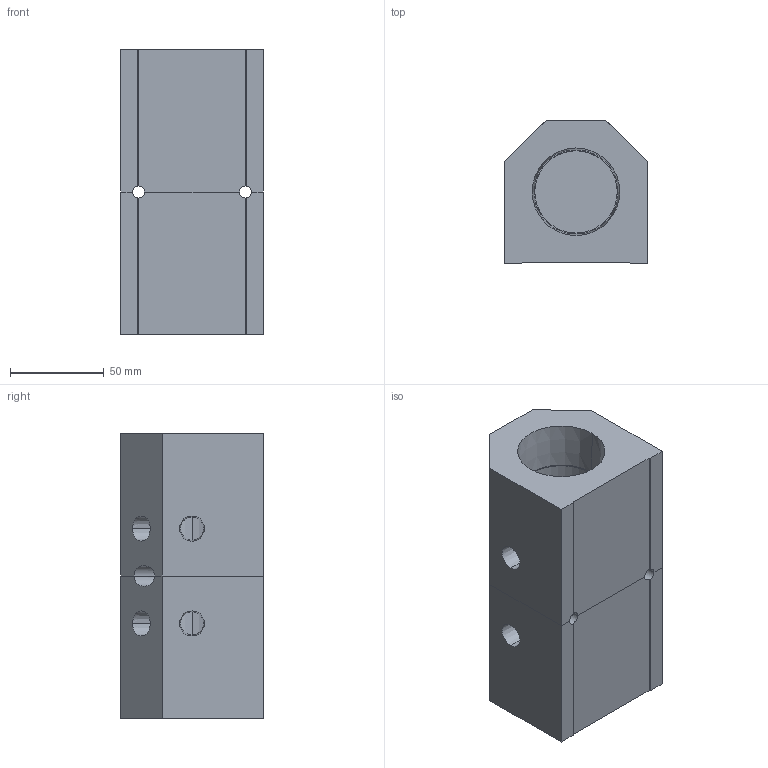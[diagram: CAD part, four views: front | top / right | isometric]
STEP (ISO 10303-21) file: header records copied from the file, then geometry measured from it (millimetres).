
FILE_DESCRIPTION (( 'STEP AP214' ), '1' );
FILE_NAME ('ALM2ABC-N4N24-152RB.step', '2022-02-07T07:51:54', ( '' ), ( '' ), 'SwSTEP 2.0', 'SolidWorks 2020', '' );
FILE_SCHEMA (( 'AUTOMOTIVE_DESIGN' ));
Length unit declared in the file: millimetre
Products named in the file (1): ALM2ABC-N4N24-152RB
Bounding box: 76.2 x 76.2 x 152 mm (x, y, z)
Volume: 550533.7 mm3; surface area: 87741.2 mm2
Topology: 2 solids, 2 shells, 353 faces, 933 edges, 620 vertices
Faces by surface type: plane 258, bspline 63, cylinder 16, cone 16
Entity records: 18684 total; most frequent: CARTESIAN_POINT 7080, ORIENTED_EDGE 1866, DIRECTION 1415, EDGE_CURVE 933, VECTOR 737, LINE 737, VERTEX_POINT 620, EDGE_LOOP 401
